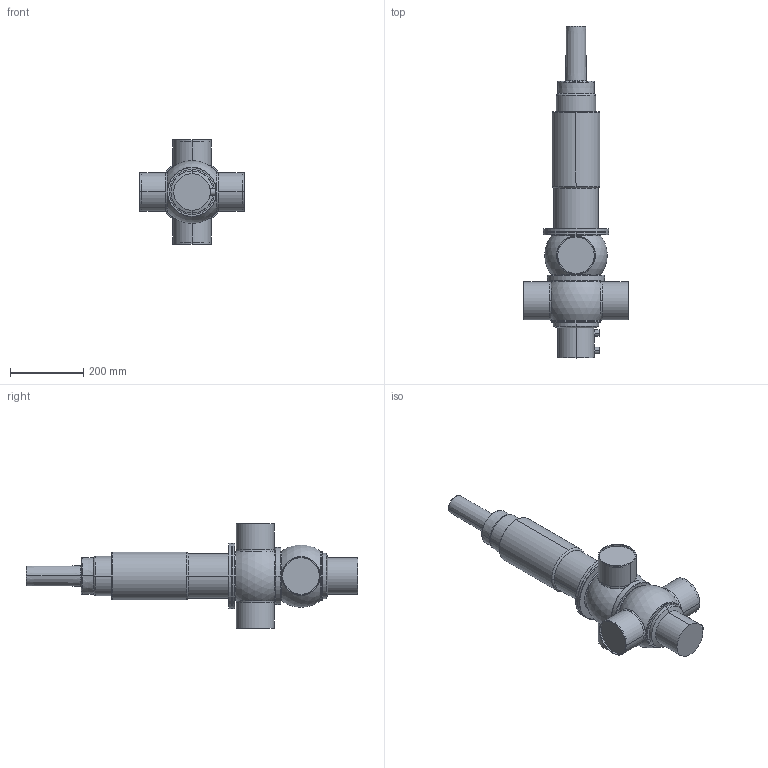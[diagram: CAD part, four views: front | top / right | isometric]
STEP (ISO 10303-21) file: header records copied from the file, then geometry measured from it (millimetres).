
FILE_DESCRIPTION(('Creo Elements/Direct Modeling STEP Export'),'2;1');
FILE_NAME('D44SL-100_prox..stp','2019-09-04T 9:53:17',(''),(''),'PTC Creo Elements/Direct Modeling STEP processor for AP214 (Solid Model)','PTC Creo Elements/Direct Modeling 19.0B 21-Mar-2015 (C) Parametric Technology GmbH','');
FILE_SCHEMA(('AUTOMOTIVE_DESIGN { 1 0 10303 214 1 1 1 1 }'));
Length unit declared in the file: millimetre
Products named in the file (5): D4_Prox._holder.; actuator_D4SL-125_yoke; drain_pipe_92; housing_D44-100; D44SL-100_prox.
Assembly tree (4 placements, depth 2):
  D44SL-100_prox.
    housing_D44-100
    drain_pipe_92
    actuator_D4SL-125_yoke
    D4_Prox._holder.
Bounding box: 285 x 908.5 x 285 mm (x, y, z)
Volume: 13283962.2 mm3; surface area: 609687.5 mm2
Topology: 4 solids, 4 shells, 137 faces, 298 edges, 183 vertices
Faces by surface type: cylinder 52, torus 42, plane 28, cone 10, sphere 5
Entity records: 4278 total; most frequent: CARTESIAN_POINT 1390, ORIENTED_EDGE 592, DIRECTION 588, EDGE_CURVE 296, AXIS2_PLACEMENT_3D 263, VERTEX_POINT 183, EDGE_LOOP 153, FACE_OUTER_BOUND 137
